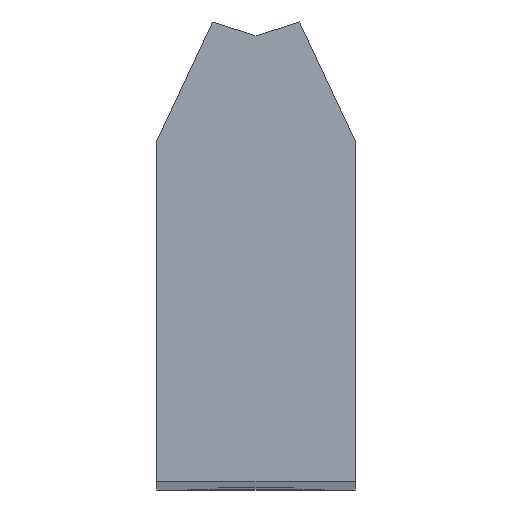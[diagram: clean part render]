
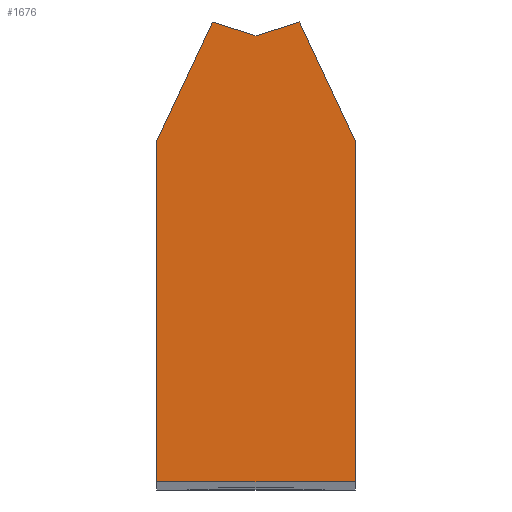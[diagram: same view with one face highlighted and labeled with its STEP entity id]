
A CAD part, top view. The second image highlights one B-rep face of the part: STEP entity #1676.
In plain terms, the highlighted planar face has unit normal (0, 0, 1).
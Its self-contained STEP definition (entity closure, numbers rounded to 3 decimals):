
#14 = VERTEX_POINT ( 'NONE', #1439 ) ;
#31 = CARTESIAN_POINT ( 'NONE',  ( 12.5, 42.995, 299.75 ) ) ;
#65 = EDGE_CURVE ( 'NONE', #1464, #1333, #2078, .T. ) ;
#99 = ORIENTED_EDGE ( 'NONE', *, *, #2248, .T. ) ;
#108 = PLANE ( 'NONE',  #1607 ) ;
#135 = DIRECTION ( 'NONE',  ( 0., 0., 1. ) ) ;
#140 = EDGE_CURVE ( 'NONE', #925, #14, #1484, .T. ) ;
#220 = EDGE_LOOP ( 'NONE', ( #726, #2178, #2225, #568, #1818, #597, #99 ) ) ;
#240 = EDGE_CURVE ( 'NONE', #457, #1464, #589, .T. ) ;
#245 = VECTOR ( 'NONE', #930, 1000. ) ;
#332 = VECTOR ( 'NONE', #1640, 1000. ) ;
#397 = CARTESIAN_POINT ( 'NONE',  ( -5.5, 58.006, 299.75 ) ) ;
#455 = LINE ( 'NONE', #898, #332 ) ;
#457 = VERTEX_POINT ( 'NONE', #397 ) ;
#504 = CARTESIAN_POINT ( 'NONE',  ( 0., 0., 299.75 ) ) ;
#535 = VECTOR ( 'NONE', #1494, 1000. ) ;
#568 = ORIENTED_EDGE ( 'NONE', *, *, #2481, .T. ) ;
#589 = LINE ( 'NONE', #2274, #714 ) ;
#597 = ORIENTED_EDGE ( 'NONE', *, *, #140, .T. ) ;
#605 = DIRECTION ( 'NONE',  ( -0.954, -0.301, 0. ) ) ;
#647 = LINE ( 'NONE', #1442, #2085 ) ;
#714 = VECTOR ( 'NONE', #792, 1000. ) ;
#726 = ORIENTED_EDGE ( 'NONE', *, *, #2356, .T. ) ;
#792 = DIRECTION ( 'NONE',  ( -0.423, -0.906, 0. ) ) ;
#802 = CARTESIAN_POINT ( 'NONE',  ( 12.5, 0., 299.75 ) ) ;
#898 = CARTESIAN_POINT ( 'NONE',  ( 12.5, 0., 299.75 ) ) ;
#925 = VERTEX_POINT ( 'NONE', #31 ) ;
#930 = DIRECTION ( 'NONE',  ( 0., -1., 0. ) ) ;
#1027 = CARTESIAN_POINT ( 'NONE',  ( -12.5, 42.995, 299.75 ) ) ;
#1168 = LINE ( 'NONE', #1330, #2363 ) ;
#1231 = DIRECTION ( 'NONE',  ( -0.954, 0.301, 0. ) ) ;
#1330 = CARTESIAN_POINT ( 'NONE',  ( 5.5, 58.006, 299.75 ) ) ;
#1333 = VERTEX_POINT ( 'NONE', #2054 ) ;
#1439 = CARTESIAN_POINT ( 'NONE',  ( 5.5, 58.006, 299.75 ) ) ;
#1442 = CARTESIAN_POINT ( 'NONE',  ( 0., 56.272, 299.75 ) ) ;
#1446 = CARTESIAN_POINT ( 'NONE',  ( 0., 56.272, 299.75 ) ) ;
#1464 = VERTEX_POINT ( 'NONE', #1027 ) ;
#1484 = LINE ( 'NONE', #2029, #1717 ) ;
#1494 = DIRECTION ( 'NONE',  ( 1., 0., 0. ) ) ;
#1607 = AXIS2_PLACEMENT_3D ( 'NONE', #504, #135, #1650 ) ;
#1640 = DIRECTION ( 'NONE',  ( 0., 1., 0. ) ) ;
#1650 = DIRECTION ( 'NONE',  ( 1., 0., 0. ) ) ;
#1676 = ADVANCED_FACE ( 'NONE', ( #1830 ), #108, .T. ) ;
#1717 = VECTOR ( 'NONE', #2430, 1000. ) ;
#1818 = ORIENTED_EDGE ( 'NONE', *, *, #2459, .T. ) ;
#1830 = FACE_OUTER_BOUND ( 'NONE', #220, .T. ) ;
#1858 = CARTESIAN_POINT ( 'NONE',  ( -12.5, 42.995, 299.75 ) ) ;
#2029 = CARTESIAN_POINT ( 'NONE',  ( 12.5, 42.995, 299.75 ) ) ;
#2054 = CARTESIAN_POINT ( 'NONE',  ( -12.5, 0., 299.75 ) ) ;
#2078 = LINE ( 'NONE', #1858, #245 ) ;
#2085 = VECTOR ( 'NONE', #1231, 1000. ) ;
#2178 = ORIENTED_EDGE ( 'NONE', *, *, #240, .T. ) ;
#2198 = VERTEX_POINT ( 'NONE', #1446 ) ;
#2225 = ORIENTED_EDGE ( 'NONE', *, *, #65, .T. ) ;
#2248 = EDGE_CURVE ( 'NONE', #14, #2198, #1168, .T. ) ;
#2253 = VERTEX_POINT ( 'NONE', #802 ) ;
#2274 = CARTESIAN_POINT ( 'NONE',  ( -5.5, 58.006, 299.75 ) ) ;
#2356 = EDGE_CURVE ( 'NONE', #2198, #457, #647, .T. ) ;
#2363 = VECTOR ( 'NONE', #605, 1000. ) ;
#2412 = CARTESIAN_POINT ( 'NONE',  ( -12.5, 0., 299.75 ) ) ;
#2430 = DIRECTION ( 'NONE',  ( -0.423, 0.906, 0. ) ) ;
#2431 = LINE ( 'NONE', #2412, #535 ) ;
#2459 = EDGE_CURVE ( 'NONE', #2253, #925, #455, .T. ) ;
#2481 = EDGE_CURVE ( 'NONE', #1333, #2253, #2431, .T. ) ;
